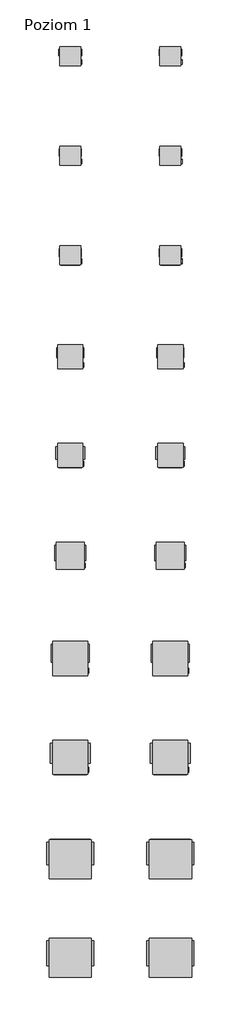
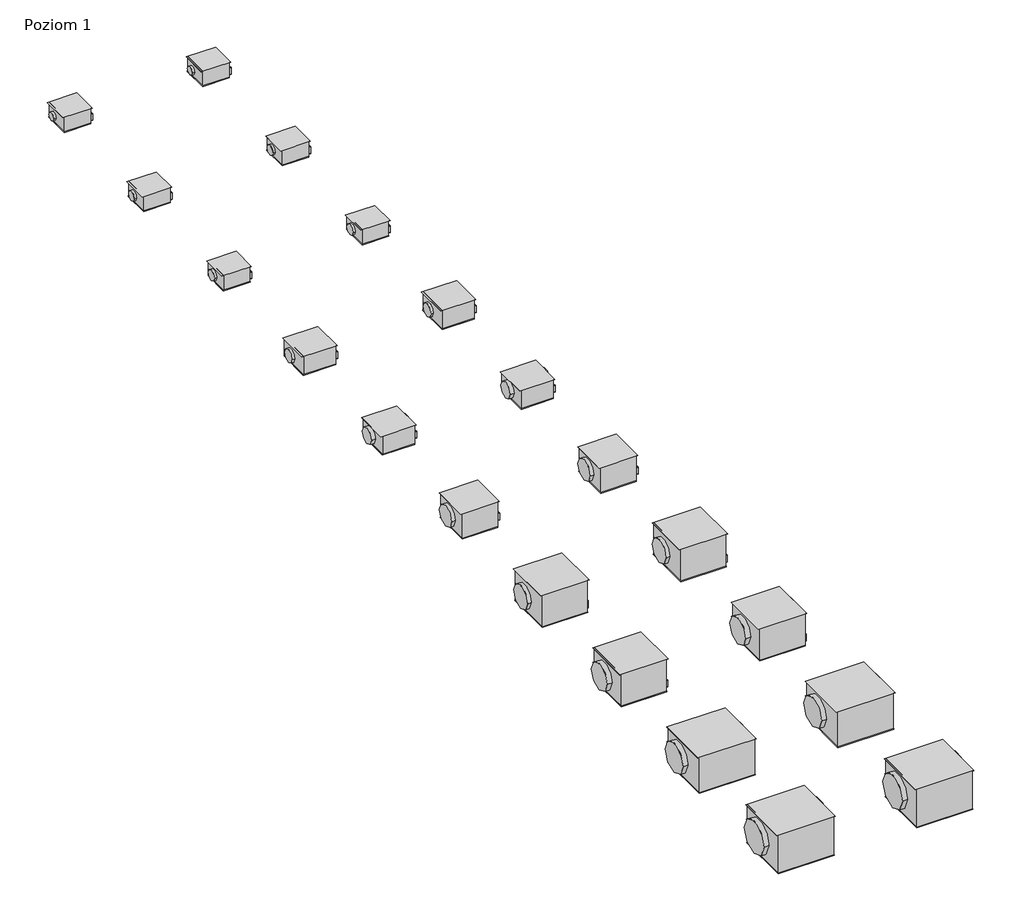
# One storey: 20 unitary equipment elements.
"""IFC4 building model written with IfcOpenShell, lengths in millimetres."""

from ifc_helpers import new_model, si_unit, origin, place, context, project, spatial, transform, mapped, element, save
from components import unitary_equipment_1ab13a20, unitary_equipment_99462ab2, unitary_equipment_82e6fe82, unitary_equipment_fcf8ed81, unitary_equipment_b75d6688, unitary_equipment_63e0a872, unitary_equipment_fa7ab7a6, unitary_equipment_ebf562d8, unitary_equipment_a4a32f91, unitary_equipment_b3884813

model = new_model("IFC4")

# Units and contexts
model_context = context("Model", 3, world=origin())
ifc_project = project(units=[si_unit("LENGTHUNIT", "METRE", prefix="MILLI")], contexts=[model_context])

# Site, building, storey
site = spatial("IfcSite", under=ifc_project)
building = spatial("IfcBuilding", under=site)
storey = spatial("IfcBuildingStorey", under=building, Name="Poziom 1", Elevation=0.0)

# Unitary equipment
placement = place(None, origin())
unitary_equipment_shape = unitary_equipment_1ab13a20(model_context)
element("IfcUnitaryEquipment", 1, ObjectType="VE-Wentylator-ParaForma-Harmann-ECOBOX_EC-Nawiewny : 125/450EC", at=placement, inside=storey, context=model_context, shape_type="MappedRepresentation", body=[
    mapped(unitary_equipment_shape, transform((6582.5, 7000.0, 0.0), x_axis=(1.0, 0.0, 0.0), y_axis=(0.0, 1.0, 0.0), z_axis=(0.0, 0.0, 1.0))),
])
unitary_equipment_2_shape = unitary_equipment_99462ab2(model_context)
element("IfcUnitaryEquipment", 2, ObjectType="VE-Wentylator-ParaForma-Harmann-ECOBOX_EC-Nawiewny : 150/500EC", at=placement, inside=storey, context=model_context, shape_type="MappedRepresentation", body=[
    mapped(unitary_equipment_2_shape, transform((6582.5, 5000.0, 0.0), x_axis=(1.0, 0.0, 0.0), y_axis=(0.0, 1.0, 0.0), z_axis=(0.0, 0.0, 1.0))),
])
unitary_equipment_3_shape = unitary_equipment_82e6fe82(model_context)
element("IfcUnitaryEquipment", 3, ObjectType="VE-Wentylator-ParaForma-Harmann-ECOBOX_EC-Nawiewny : 160/600EC", at=placement, inside=storey, context=model_context, shape_type="MappedRepresentation", body=[
    mapped(unitary_equipment_3_shape, transform((6582.5, 3000.0, 0.0), x_axis=(1.0, 0.0, 0.0), y_axis=(0.0, 1.0, 0.0), z_axis=(0.0, 0.0, 1.0))),
])
unitary_equipment_4_shape = unitary_equipment_fcf8ed81(model_context)
element("IfcUnitaryEquipment", 4, ObjectType="VE-Wentylator-ParaForma-Harmann-ECOBOX_EC-Nawiewny : 200/900EC", at=placement, inside=storey, context=model_context, shape_type="MappedRepresentation", body=[
    mapped(unitary_equipment_4_shape, transform((6582.5, 1000.0, 0.0), x_axis=(1.0, 0.0, 0.0), y_axis=(0.0, 1.0, 0.0), z_axis=(0.0, 0.0, 1.0))),
])
unitary_equipment_5_shape = unitary_equipment_b75d6688(model_context)
element("IfcUnitaryEquipment", 5, ObjectType="VE-Wentylator-ParaForma-Harmann-ECOBOX_EC-Nawiewny : 250/1200EC", at=placement, inside=storey, context=model_context, shape_type="MappedRepresentation", body=[
    mapped(unitary_equipment_5_shape, transform((6582.5, -1000.0, 0.0), x_axis=(1.0, 0.0, 0.0), y_axis=(0.0, 1.0, 0.0), z_axis=(0.0, 0.0, 1.0))),
])
unitary_equipment_6_shape = unitary_equipment_63e0a872(model_context)
element("IfcUnitaryEquipment", 6, ObjectType="VE-Wentylator-ParaForma-Harmann-ECOBOX_EC-Nawiewny : 315/1800EC", at=placement, inside=storey, context=model_context, shape_type="MappedRepresentation", body=[
    mapped(unitary_equipment_6_shape, transform((6582.5, -3000.0, 0.0), x_axis=(1.0, 0.0, 0.0), y_axis=(0.0, 1.0, 0.0), z_axis=(0.0, 0.0, 1.0))),
])
unitary_equipment_7_shape = unitary_equipment_fa7ab7a6(model_context)
element("IfcUnitaryEquipment", 7, ObjectType="VE-Wentylator-ParaForma-Harmann-ECOBOX_EC-Nawiewny : 355/2000EC", at=placement, inside=storey, context=model_context, shape_type="MappedRepresentation", body=[
    mapped(unitary_equipment_7_shape, transform((6582.5, -5000.0, 0.0), x_axis=(1.0, 0.0, 0.0), y_axis=(0.0, 1.0, 0.0), z_axis=(0.0, 0.0, 1.0))),
])
unitary_equipment_8_shape = unitary_equipment_ebf562d8(model_context)
element("IfcUnitaryEquipment", 8, ObjectType="VE-Wentylator-ParaForma-Harmann-ECOBOX_EC-Nawiewny : 400/2300EC", at=placement, inside=storey, context=model_context, shape_type="MappedRepresentation", body=[
    mapped(unitary_equipment_8_shape, transform((6582.5, -7000.0, 0.0), x_axis=(1.0, 0.0, 0.0), y_axis=(0.0, 1.0, 0.0), z_axis=(0.0, 0.0, 1.0))),
])
unitary_equipment_9_shape = unitary_equipment_a4a32f91(model_context)
element("IfcUnitaryEquipment", 9, ObjectType="VE-Wentylator-ParaForma-Harmann-ECOBOX_EC-Nawiewny : 450/4200EC", at=placement, inside=storey, context=model_context, shape_type="MappedRepresentation", body=[
    mapped(unitary_equipment_9_shape, transform((6582.5, -9000.0, 0.0), x_axis=(1.0, 0.0, 0.0), y_axis=(0.0, 1.0, 0.0), z_axis=(0.0, 0.0, 1.0))),
])
unitary_equipment_10_shape = unitary_equipment_b3884813(model_context)
element("IfcUnitaryEquipment", 10, ObjectType="VE-Wentylator-ParaForma-Harmann-ECOBOX_EC-Nawiewny : 500/4500EC", at=placement, inside=storey, context=model_context, shape_type="MappedRepresentation", body=[
    mapped(unitary_equipment_10_shape, transform((6582.5, -11000.0, 0.0), x_axis=(1.0, 0.0, 0.0), y_axis=(0.0, 1.0, 0.0), z_axis=(0.0, 0.0, 1.0))),
])
element("IfcUnitaryEquipment", 11, ObjectType="VE-Wentylator-ParaForma-Harmann-ECOBOX_EC-Wywiewny : 125/450EC", at=placement, inside=storey, context=model_context, shape_type="MappedRepresentation", body=[
    mapped(unitary_equipment_shape, transform((4582.5, 7000.0, 0.0), x_axis=(1.0, 0.0, 0.0), y_axis=(0.0, 1.0, 0.0), z_axis=(0.0, 0.0, 1.0))),
])
element("IfcUnitaryEquipment", 12, ObjectType="VE-Wentylator-ParaForma-Harmann-ECOBOX_EC-Wywiewny : 150/500EC", at=placement, inside=storey, context=model_context, shape_type="MappedRepresentation", body=[
    mapped(unitary_equipment_2_shape, transform((4582.5, 5000.0, 0.0), x_axis=(1.0, 0.0, 0.0), y_axis=(0.0, 1.0, 0.0), z_axis=(0.0, 0.0, 1.0))),
])
element("IfcUnitaryEquipment", 13, ObjectType="VE-Wentylator-ParaForma-Harmann-ECOBOX_EC-Wywiewny : 160/600EC", at=placement, inside=storey, context=model_context, shape_type="MappedRepresentation", body=[
    mapped(unitary_equipment_3_shape, transform((4582.5, 3000.0, 0.0), x_axis=(1.0, 0.0, 0.0), y_axis=(0.0, 1.0, 0.0), z_axis=(0.0, 0.0, 1.0))),
])
element("IfcUnitaryEquipment", 14, ObjectType="VE-Wentylator-ParaForma-Harmann-ECOBOX_EC-Wywiewny : 200/900EC", at=placement, inside=storey, context=model_context, shape_type="MappedRepresentation", body=[
    mapped(unitary_equipment_4_shape, transform((4582.5, 1000.0, 0.0), x_axis=(1.0, 0.0, 0.0), y_axis=(0.0, 1.0, 0.0), z_axis=(0.0, 0.0, 1.0))),
])
element("IfcUnitaryEquipment", 15, ObjectType="VE-Wentylator-ParaForma-Harmann-ECOBOX_EC-Wywiewny : 250/1200EC", at=placement, inside=storey, context=model_context, shape_type="MappedRepresentation", body=[
    mapped(unitary_equipment_5_shape, transform((4582.5, -1000.0, 0.0), x_axis=(1.0, 0.0, 0.0), y_axis=(0.0, 1.0, 0.0), z_axis=(0.0, 0.0, 1.0))),
])
element("IfcUnitaryEquipment", 16, ObjectType="VE-Wentylator-ParaForma-Harmann-ECOBOX_EC-Wywiewny : 315/1800EC", at=placement, inside=storey, context=model_context, shape_type="MappedRepresentation", body=[
    mapped(unitary_equipment_6_shape, transform((4582.5, -3000.0, 0.0), x_axis=(1.0, 0.0, 0.0), y_axis=(0.0, 1.0, 0.0), z_axis=(0.0, 0.0, 1.0))),
])
element("IfcUnitaryEquipment", 17, ObjectType="VE-Wentylator-ParaForma-Harmann-ECOBOX_EC-Wywiewny : 355/2000EC", at=placement, inside=storey, context=model_context, shape_type="MappedRepresentation", body=[
    mapped(unitary_equipment_7_shape, transform((4582.5, -5000.0, 0.0), x_axis=(1.0, 0.0, 0.0), y_axis=(0.0, 1.0, 0.0), z_axis=(0.0, 0.0, 1.0))),
])
element("IfcUnitaryEquipment", 18, ObjectType="VE-Wentylator-ParaForma-Harmann-ECOBOX_EC-Wywiewny : 400/2300EC", at=placement, inside=storey, context=model_context, shape_type="MappedRepresentation", body=[
    mapped(unitary_equipment_8_shape, transform((4582.5, -7000.0, 0.0), x_axis=(1.0, 0.0, 0.0), y_axis=(0.0, 1.0, 0.0), z_axis=(0.0, 0.0, 1.0))),
])
element("IfcUnitaryEquipment", 19, ObjectType="VE-Wentylator-ParaForma-Harmann-ECOBOX_EC-Wywiewny : 450/4200EC", at=placement, inside=storey, context=model_context, shape_type="MappedRepresentation", body=[
    mapped(unitary_equipment_9_shape, transform((4582.5, -9000.0, 0.0), x_axis=(1.0, 0.0, 0.0), y_axis=(0.0, 1.0, 0.0), z_axis=(0.0, 0.0, 1.0))),
])
element("IfcUnitaryEquipment", 20, ObjectType="VE-Wentylator-ParaForma-Harmann-ECOBOX_EC-Wywiewny : 500/4500EC", at=placement, inside=storey, context=model_context, shape_type="MappedRepresentation", body=[
    mapped(unitary_equipment_10_shape, transform((4582.5, -11000.0, 0.0), x_axis=(1.0, 0.0, 0.0), y_axis=(0.0, 1.0, 0.0), z_axis=(0.0, 0.0, 1.0))),
])

save(model, "model.ifc")
